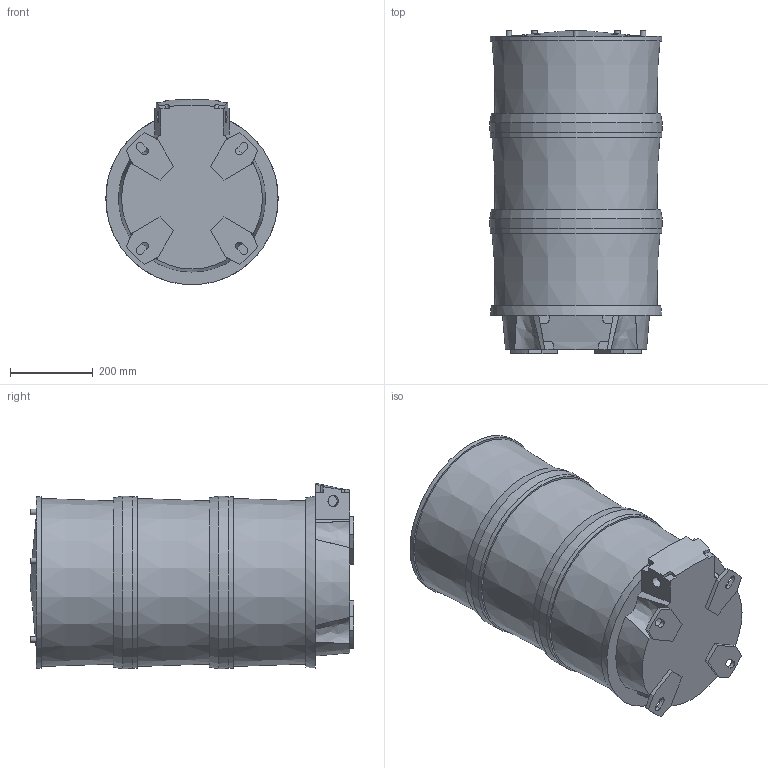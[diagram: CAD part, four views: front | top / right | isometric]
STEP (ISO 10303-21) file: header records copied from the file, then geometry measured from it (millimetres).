
FILE_DESCRIPTION (( 'STEP AP203' ), '1' );
FILE_NAME ('L410EX-W-15N.STEP', '2019-11-08T10:58:21', ( '' ), ( '' ), 'SwSTEP 2.0', 'SolidWorks 2018', '' );
FILE_SCHEMA (( 'CONFIG_CONTROL_DESIGN' ));
Length unit declared in the file: millimetre
Products named in the file (1): L410EX-W-15N
Bounding box: 416 x 780 x 447.28 mm (x, y, z)
Volume: 94308525.7 mm3; surface area: 1322927.8 mm2
Topology: 1 solids, 1 shells, 124 faces, 305 edges, 195 vertices
Faces by surface type: plane 78, cylinder 28, cone 13, bspline 5
Full cylindrical faces by diameter (mm): 5 x1, 13 x5, 26 x2, 414 x3
Entity records: 4684 total; most frequent: CARTESIAN_POINT 1855, ORIENTED_EDGE 556, DIRECTION 544, EDGE_CURVE 278, AXIS2_PLACEMENT_3D 195, VERTEX_POINT 187, EDGE_LOOP 163, VECTOR 154
